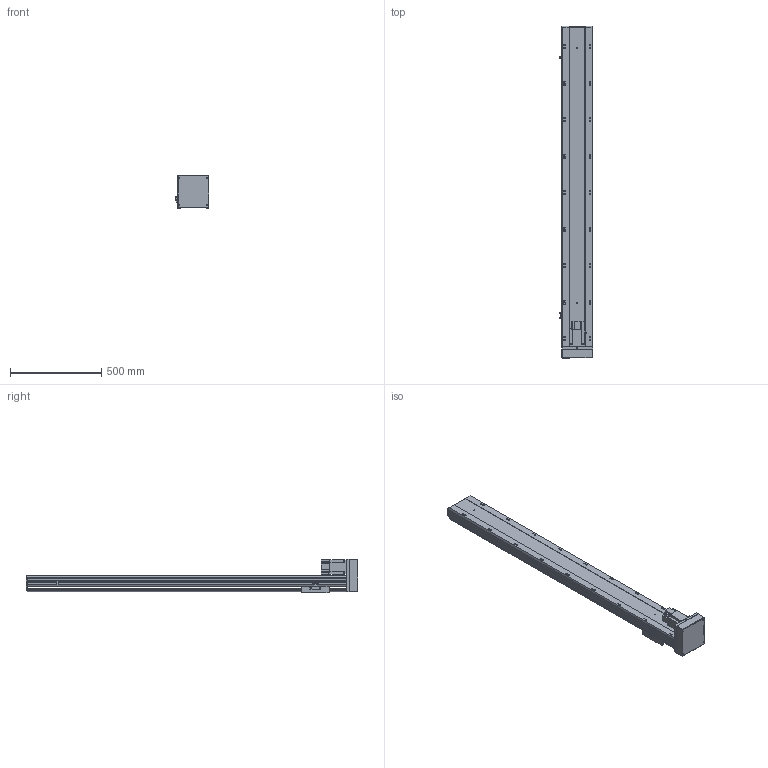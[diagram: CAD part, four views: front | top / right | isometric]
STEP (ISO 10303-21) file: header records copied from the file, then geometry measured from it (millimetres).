
FILE_DESCRIPTION (( 'STEP AP203' ), '1' );
FILE_NAME ('13.STEP', '2020-08-19T06:06:22', ( 'CXY' ), ( 'BOTI' ), 'SwSTEP 2.0', 'SolidWorks 2016', '' );
FILE_SCHEMA (( 'CONFIG_CONTROL_DESIGN' ));
Length unit declared in the file: millimetre
Products named in the file (15): BTH17M-BM-02; BTH17M-BM-T75; BTH17M-BM-HZ; BTH17M-BM-01; BTH17M-BM-04; 13; BTH17M-BM-菁釱
Assembly tree (8 placements, depth 2):
  BTH17M-BM-02
  BTH17M-BM-T75
  BTH17M-BM-HZ
  BTH17M-BM-04
  13
    BTH17M-BM-01
    BTH17M-BM-02
    BTH17M-BM-04  x3
    BTH17M-BM-HZ
    BTH17M-BM-T75
    BTH17M-BM-菁釱
Bounding box: 183.7 x 1819 x 185 mm (x, y, z)
Volume: 12756703.1 mm3; surface area: 2119912.6 mm2
Topology: 12 solids, 12 shells, 1087 faces, 2942 edges, 1919 vertices
Faces by surface type: plane 724, cylinder 307, cone 36, bspline 20
Full cylindrical faces by diameter (mm): 3.3 x4, 4.5 x15, 5 x10, 6 x10, 6.5 x4, 6.8 x18, 7.5 x5, 8 x6, 9 x18, 10 x4, 13.5 x18, 19 x1, 30 x1, 70 x1
Entity records: 27849 total; most frequent: CARTESIAN_POINT 5771, DIRECTION 4170, ORIENTED_EDGE 4168, EDGE_CURVE 2084, VECTOR 1456, LINE 1456, VERTEX_POINT 1430, AXIS2_PLACEMENT_3D 1357
